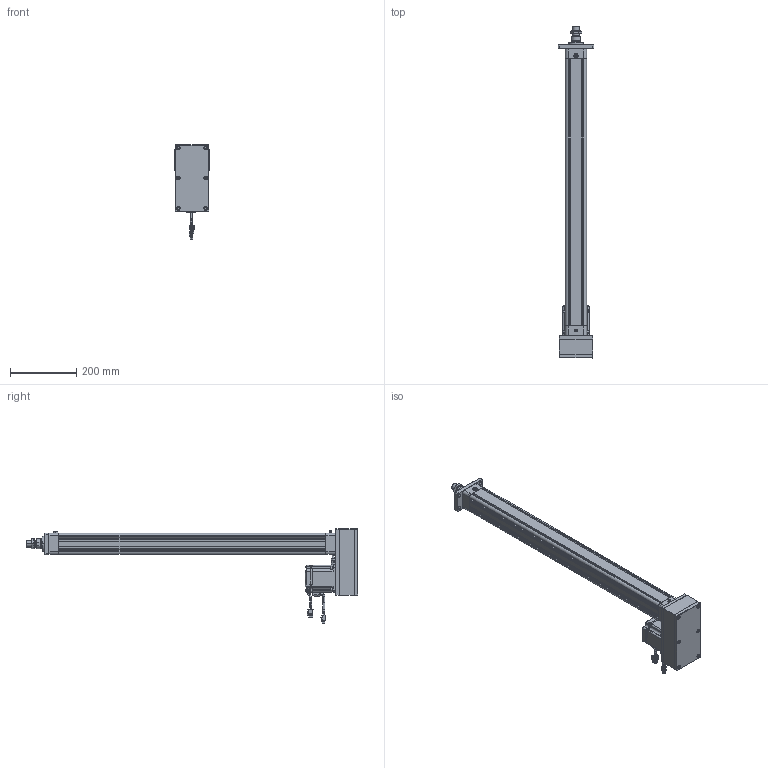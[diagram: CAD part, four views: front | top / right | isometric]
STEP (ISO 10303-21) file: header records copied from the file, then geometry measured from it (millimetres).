
FILE_DESCRIPTION((''),'2;1');
FILE_NAME('ASM0001_ASM','2020-04-16T',('ASUS20200'),(''),'CREO PARAMETRIC BY PTC INC, 2014190','CREO PARAMETRIC BY PTC INC, 2014190','');
FILE_SCHEMA(('CONFIG_CONTROL_DESIGN'));
Length unit declared in the file: millimetre
Products named in the file (31): HE50-D-P-001-X1; HE50-D-P-002-X1; HE50-D-P-003-X1; 6301ZZ; LGLM-M8-22; SLM-01; YZ-M6X1; HE50-P-010-X1-400W; _MHMF082L1A2; _CABLE_MOTOR_BOTTOM_05; _CABLE_MOTOR_TOP_05; _MOTOR_CONNECTOR_2; _CABLE_BRAKE_BOTTOM_05; _CABLE_BRAKE_TOP_05; _MHMF_CONNECTOR_9_PIN_A6; MHMF082L1A2M2_1_ASM; TD-6; M6X25; LM-M6X1; JX6X6X20; M6X25-DS; LM-M6-15; HE50-P-012-X1; HE50-P-013-X1; M6X60; HE50-D-P-005-X1; HE50-D-P-004-X1; HE50-D-P-008-X1; F-SE50FA; M8X16; ASM0001_ASM
Assembly tree (55 placements, depth 3):
  ASM0001_ASM
    HE50-D-P-001-X1
    HE50-D-P-002-X1
    HE50-D-P-003-X1
    6301ZZ
    LGLM-M8-22  x8
    SLM-01
    YZ-M6X1
    HE50-P-010-X1-400W
    MHMF082L1A2M2_1_ASM
      _MHMF082L1A2
      _CABLE_MOTOR_BOTTOM_05
      _CABLE_MOTOR_TOP_05
      _MOTOR_CONNECTOR_2
      _CABLE_BRAKE_BOTTOM_05
      _CABLE_BRAKE_TOP_05
      _MHMF_CONNECTOR_9_PIN_A6
    TD-6  x4
    M6X25  x4
    LM-M6X1  x5
    JX6X6X20
    M6X25-DS
    LM-M6-15
    HE50-P-012-X1
    HE50-P-013-X1
    M6X60  x6
    HE50-D-P-005-X1
    HE50-D-P-004-X1
    HE50-D-P-008-X1
    F-SE50FA
    M8X16  x4
Bounding box: 108 x 998.5 x 283.65 mm (x, y, z)
Volume: 2862097 mm3; surface area: 832087.8 mm2
Topology: 54 solids, 84 shells, 2871 faces, 6873 edges, 4270 vertices
Faces by surface type: plane 1216, cylinder 785, cone 671, torus 154, sphere 42, bspline 3
Entity records: 67975 total; most frequent: CARTESIAN_POINT 12752, DIRECTION 12169, ORIENTED_EDGE 10782, EDGE_CURVE 5441, AXIS2_PLACEMENT_3D 4570, VERTEX_POINT 3411, VECTOR 3029, LINE 3029
